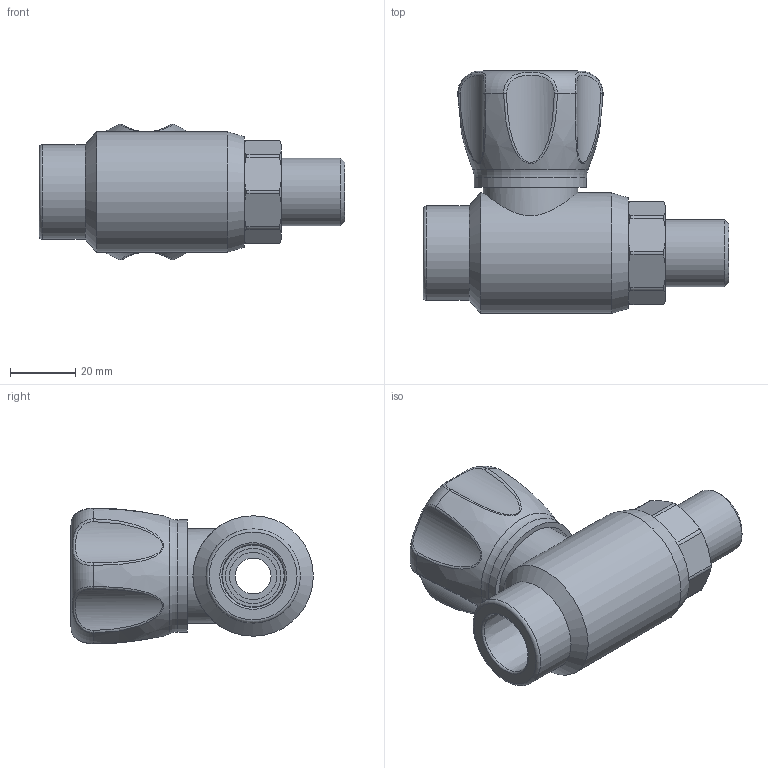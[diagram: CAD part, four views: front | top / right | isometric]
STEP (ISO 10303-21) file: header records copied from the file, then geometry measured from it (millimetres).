
FILE_DESCRIPTION(/* description */ (''),/* implementation_level */ '2;1');
FILE_NAME(/* name */ 'E:\Артём\00000\Работа удаленка\VTp.717.0.02004.stp',/* time_stamp */ '2020-04-01T13:18:30+03:00',/* author */ ('BeN_GaN'),/* organization */ (''),/* preprocessor_version */ 'ST-DEVELOPER v18',/* originating_system */ 'Autodesk Inventor 2020',/* authorisation */ '');
FILE_SCHEMA (('AUTOMOTIVE_DESIGN { 1 0 10303 214 3 1 1 }'));
Length unit declared in the file: millimetre
Products named in the file (1): VTp.717.0.02004
Bounding box: 94 x 74.58 x 41.76 mm (x, y, z)
Volume: 92240.6 mm3; surface area: 30902.8 mm2
Topology: 3 solids, 10 shells, 332 faces, 881 edges, 603 vertices
Faces by surface type: plane 188, cylinder 58, cone 38, bspline 33, torus 12, sphere 3
Full cylindrical faces by diameter (mm): 6.5 x1, 6.7 x2, 6.886 x1, 9.1 x3, 11 x2, 11.4 x1, 11.5 x1, 11.613 x1, 14.5 x3, 14.6 x2, 14.825 x1, 15.025 x1, 15.5 x1, 17 x2, 17.715 x1, 19 x1, 20 x1, 20.7 x1, 21 x2, 22 x1, 23 x1, 24.111 x1, 24.2 x1, 26.261 x1, 29 x2, 29.278 x1, 34.444 x1, 37 x1
Entity records: 12404 total; most frequent: CARTESIAN_POINT 4123, ORIENTED_EDGE 1752, DIRECTION 1652, EDGE_CURVE 876, VERTEX_POINT 603, AXIS2_PLACEMENT_3D 598, LINE 456, VECTOR 456
